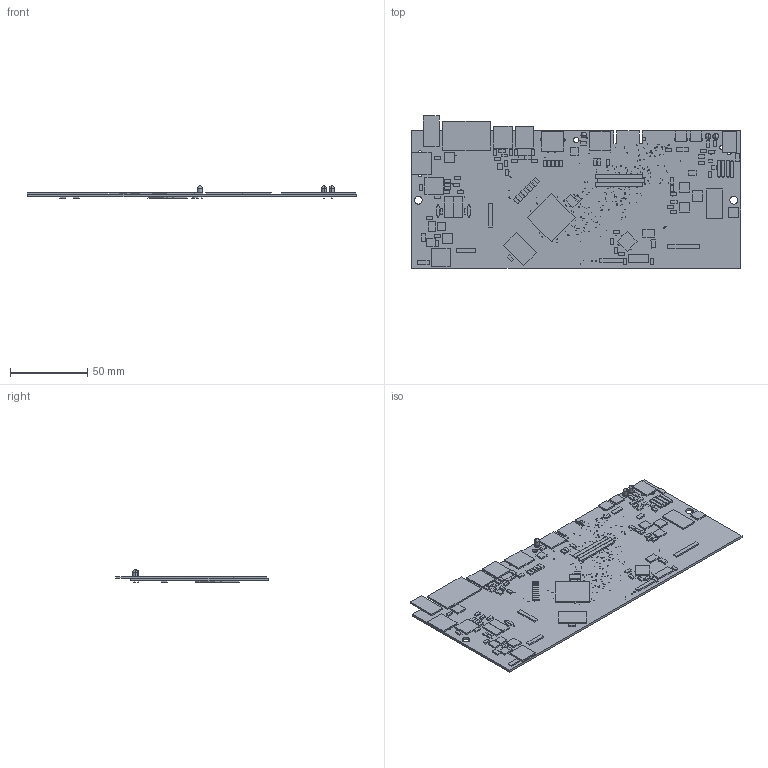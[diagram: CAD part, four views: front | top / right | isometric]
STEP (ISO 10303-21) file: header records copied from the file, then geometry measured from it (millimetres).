
FILE_DESCRIPTION((''),'2;1');
FILE_NAME('ZXUNOXLIS_09022018_02-54-58_ASM','2018-09-02T',('SYSTEM'),(''),'PRO/ENGINEER BY PARAMETRIC TECHNOLOGY CORPORATION, 2009360','PRO/ENGINEER BY PARAMETRIC TECHNOLOGY CORPORATION, 2009360','');
FILE_SCHEMA(('AUTOMOTIVE_DESIGN_CC2 { 1 2 10303 214 -1 1 5 2 }'));
Length unit declared in the file: inch
Products named in the file (43): ZXUNOXLIS_09022018_02-54-58; C0805; 153CLV-0605; 153CLV-0505; RCA; SOD-123; LED3MM; DO35-10; ADAFRUIT_DO-1N4148; AUDIO-JACK; SOT23-6; TO220H; SO08; AVRISP; ATTEND-112; POWER_JACK_PTH; 1X12; DB9_MALE; 2X02; 1X02; 1X03; 1X05; 1X08; 1X06; M0805; DINC_MIN_TM_6_1PRIMARY; CRYSTAL_SM49; R0805; B3F-31XX; BUZZER-12MM-NS; SOT23; PCI_50; TQ144; SO08-EIAJ; TSOP44-II; SO16W; SM_OSC_1PRIMARY; SOT223; SOT95P240X112-3N; TQFP32-08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
Assembly tree (148 placements, depth 2):
  ZXUNOXLIS_09022018_02-54-58_ASM
    ZXUNOXLIS_09022018_02-54-58
    C0805  x43
    153CLV-0605  x4
    153CLV-0505  x2
    RCA
    SOD-123  x3
    LED3MM  x3
    DO35-10  x4
    ADAFRUIT_DO-1N4148  x2
    AUDIO-JACK  x2
    SOT23-6
    TO220H
    SO08
    AVRISP
    ATTEND-112
    POWER_JACK_PTH
    1X12  x3
    DB9_MALE
    2X02
    1X02  x4
    1X03  x2
    1X05
    1X08
    1X06  x2
    M0805  x40
    DINC_MIN_TM_6_1PRIMARY
    CRYSTAL_SM49
    R0805  x3
    B3F-31XX  x2
    BUZZER-12MM-NS
    SOT23
    PCI_50
    TQ144
    SO08-EIAJ
    TSOP44-II
    SO16W
    SM_OSC_1PRIMARY
    SOT223  x2
    SOT95P240X112-3N
    TQFP32-08
    M_DIN9
    HC49UP  x2
Bounding box: 213.51 x 98.7 x 7.9 mm (x, y, z)
Volume: 35167.8 mm3; surface area: 53581.5 mm2
Topology: 148 solids, 148 shells, 1932 faces, 4884 edges, 3251 vertices
Faces by surface type: cylinder 1009, plane 917, sphere 6
Entity records: 56687 total; most frequent: DIRECTION 8488, CARTESIAN_POINT 7386, ORIENTED_EDGE 7108, PRESENTATION_STYLE_ASSIGNMENT 3565, STYLED_ITEM 3565, EDGE_CURVE 3554, CURVE_STYLE 3516, AXIS2_PLACEMENT_3D 3471
